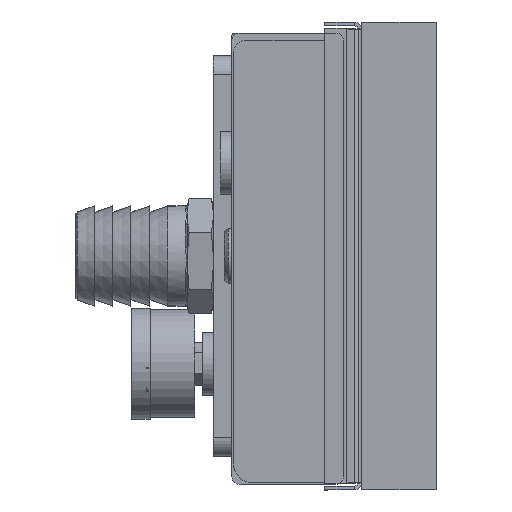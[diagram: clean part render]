
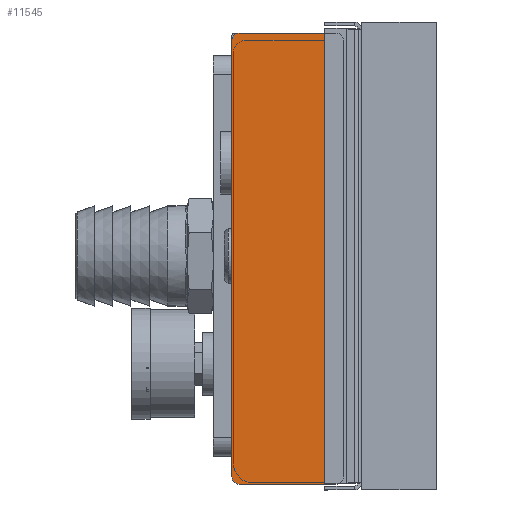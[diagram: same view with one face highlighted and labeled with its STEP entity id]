
A CAD part, left-side view. The second image highlights one B-rep face of the part: STEP entity #11545.
In plain terms, the highlighted planar face has unit normal (-1, 0, 0).
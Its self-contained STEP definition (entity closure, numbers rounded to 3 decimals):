
#95 = DIRECTION ( 'NONE',  ( -1., 0., 0. ) ) ;
#621 = DIRECTION ( 'NONE',  ( -1., 0., 0. ) ) ;
#953 = CIRCLE ( 'NONE', #25480, 2. ) ;
#1591 = DIRECTION ( 'NONE',  ( 0., 0., 1. ) ) ;
#2203 = CIRCLE ( 'NONE', #28552, 2. ) ;
#2209 = CARTESIAN_POINT ( 'NONE',  ( -623.638, 39.107, 54.959 ) ) ;
#2878 = LINE ( 'NONE', #25602, #15995 ) ;
#2905 = VERTEX_POINT ( 'NONE', #2209 ) ;
#3200 = VERTEX_POINT ( 'NONE', #25437 ) ;
#3988 = CARTESIAN_POINT ( 'NONE',  ( -623.638, 41.107, 54.959 ) ) ;
#4163 = LINE ( 'NONE', #3988, #11512 ) ;
#4396 = VERTEX_POINT ( 'NONE', #4941 ) ;
#4475 = FACE_OUTER_BOUND ( 'NONE', #13530, .T. ) ;
#4574 = CARTESIAN_POINT ( 'NONE',  ( -623.638, 41.107, -66.541 ) ) ;
#4716 = ORIENTED_EDGE ( 'NONE', *, *, #12695, .T. ) ;
#4735 = EDGE_CURVE ( 'NONE', #14988, #7576, #15297, .T. ) ;
#4738 = VERTEX_POINT ( 'NONE', #16805 ) ;
#4917 = EDGE_CURVE ( 'NONE', #7576, #4738, #23704, .T. ) ;
#4941 = CARTESIAN_POINT ( 'NONE',  ( -623.638, 39.107, -66.541 ) ) ;
#5532 = EDGE_CURVE ( 'NONE', #2905, #14711, #953, .T. ) ;
#5699 = DIRECTION ( 'NONE',  ( 0., 1., 0. ) ) ;
#6488 = DIRECTION ( 'NONE',  ( 0., 0., -1. ) ) ;
#6976 = EDGE_CURVE ( 'NONE', #4396, #31832, #8190, .T. ) ;
#7420 = ORIENTED_EDGE ( 'NONE', *, *, #17337, .T. ) ;
#7576 = VERTEX_POINT ( 'NONE', #26669 ) ;
#8190 = LINE ( 'NONE', #4574, #14742 ) ;
#8949 = DIRECTION ( 'NONE',  ( 1., 0., 0. ) ) ;
#9806 = CARTESIAN_POINT ( 'NONE',  ( -623.638, 13.107, -64.541 ) ) ;
#9963 = ORIENTED_EDGE ( 'NONE', *, *, #5532, .T. ) ;
#10165 = EDGE_CURVE ( 'NONE', #14711, #3200, #4163, .T. ) ;
#10268 = VECTOR ( 'NONE', #29034, 1000. ) ;
#10276 = CARTESIAN_POINT ( 'NONE',  ( -623.638, 11.107, 54.959 ) ) ;
#10511 = ORIENTED_EDGE ( 'NONE', *, *, #6976, .T. ) ;
#11512 = VECTOR ( 'NONE', #6488, 1000. ) ;
#11544 = AXIS2_PLACEMENT_3D ( 'NONE', #10276, #8949, #1591 ) ;
#11545 = ADVANCED_FACE ( 'NONE', ( #4475 ), #22316, .F. ) ;
#11863 = CARTESIAN_POINT ( 'NONE',  ( -623.638, 11.107, 54.959 ) ) ;
#12291 = DIRECTION ( 'NONE',  ( 0., 0., 1. ) ) ;
#12393 = CARTESIAN_POINT ( 'NONE',  ( -623.638, 13.107, 52.959 ) ) ;
#12695 = EDGE_CURVE ( 'NONE', #4738, #2905, #2878, .T. ) ;
#13225 = CARTESIAN_POINT ( 'NONE',  ( -623.638, 39.107, -64.541 ) ) ;
#13530 = EDGE_LOOP ( 'NONE', ( #10511, #21934, #24008, #21869, #4716, #9963, #18723, #7420 ) ) ;
#14711 = VERTEX_POINT ( 'NONE', #24398 ) ;
#14742 = VECTOR ( 'NONE', #16867, 1000. ) ;
#14872 = DIRECTION ( 'NONE',  ( 0., 0., 1. ) ) ;
#14988 = VERTEX_POINT ( 'NONE', #27912 ) ;
#15297 = LINE ( 'NONE', #11863, #10268 ) ;
#15995 = VECTOR ( 'NONE', #5699, 1000. ) ;
#16744 = DIRECTION ( 'NONE',  ( 0., 0., 1. ) ) ;
#16805 = CARTESIAN_POINT ( 'NONE',  ( -623.638, 13.107, 54.959 ) ) ;
#16816 = AXIS2_PLACEMENT_3D ( 'NONE', #12393, #95, #14872 ) ;
#16867 = DIRECTION ( 'NONE',  ( 0., -1., 0. ) ) ;
#17298 = CARTESIAN_POINT ( 'NONE',  ( -623.638, 13.107, -66.541 ) ) ;
#17337 = EDGE_CURVE ( 'NONE', #3200, #4396, #17784, .T. ) ;
#17784 = CIRCLE ( 'NONE', #19234, 2. ) ;
#17950 = CARTESIAN_POINT ( 'NONE',  ( -623.638, 39.107, 52.959 ) ) ;
#18193 = DIRECTION ( 'NONE',  ( -1., 0., 0. ) ) ;
#18723 = ORIENTED_EDGE ( 'NONE', *, *, #10165, .T. ) ;
#19234 = AXIS2_PLACEMENT_3D ( 'NONE', #13225, #18193, #16744 ) ;
#21869 = ORIENTED_EDGE ( 'NONE', *, *, #4917, .T. ) ;
#21934 = ORIENTED_EDGE ( 'NONE', *, *, #27173, .T. ) ;
#22316 = PLANE ( 'NONE',  #11544 ) ;
#23704 = CIRCLE ( 'NONE', #16816, 2. ) ;
#24008 = ORIENTED_EDGE ( 'NONE', *, *, #4735, .T. ) ;
#24398 = CARTESIAN_POINT ( 'NONE',  ( -623.638, 41.107, 52.959 ) ) ;
#25437 = CARTESIAN_POINT ( 'NONE',  ( -623.638, 41.107, -64.541 ) ) ;
#25480 = AXIS2_PLACEMENT_3D ( 'NONE', #17950, #621, #27710 ) ;
#25602 = CARTESIAN_POINT ( 'NONE',  ( -623.638, 41.107, 54.959 ) ) ;
#26669 = CARTESIAN_POINT ( 'NONE',  ( -623.638, 11.107, 52.959 ) ) ;
#26984 = DIRECTION ( 'NONE',  ( -1., 0., 0. ) ) ;
#27173 = EDGE_CURVE ( 'NONE', #31832, #14988, #2203, .T. ) ;
#27710 = DIRECTION ( 'NONE',  ( 0., 0., 1. ) ) ;
#27912 = CARTESIAN_POINT ( 'NONE',  ( -623.638, 11.107, -64.541 ) ) ;
#28552 = AXIS2_PLACEMENT_3D ( 'NONE', #9806, #26984, #12291 ) ;
#29034 = DIRECTION ( 'NONE',  ( 0., 0., 1. ) ) ;
#31832 = VERTEX_POINT ( 'NONE', #17298 ) ;
